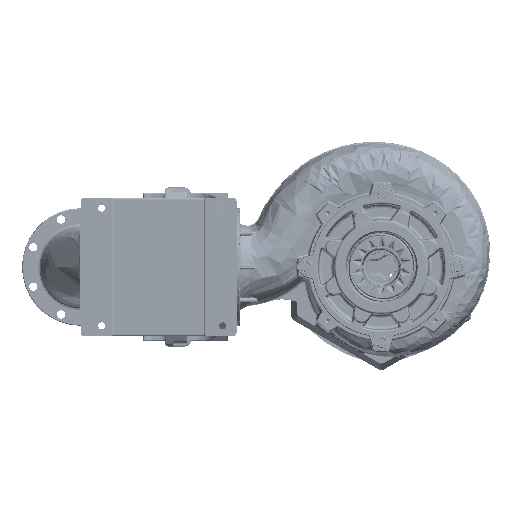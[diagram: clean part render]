
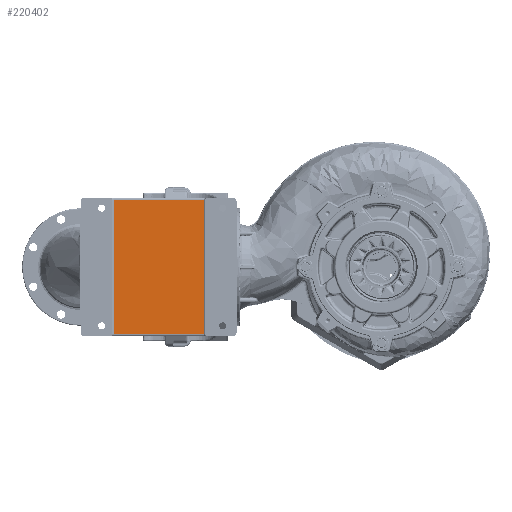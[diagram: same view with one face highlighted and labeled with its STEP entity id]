
A CAD part, front view. The second image highlights one B-rep face of the part: STEP entity #220402.
In plain terms, the highlighted planar face has unit normal (0, -1, 0).
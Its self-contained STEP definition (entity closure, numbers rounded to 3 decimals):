
#54854 = DIRECTION ( 'NONE',  ( 0., 0., 1. ) ) ;
#83833 = ORIENTED_EDGE ( 'NONE', *, *, #310374, .T. ) ;
#103706 = EDGE_LOOP ( 'NONE', ( #543806, #116310, #83833, #385928 ) ) ;
#109816 = VECTOR ( 'NONE', #126373, 1000. ) ;
#111866 = CARTESIAN_POINT ( 'NONE',  ( -509., -651.702, -195. ) ) ;
#115738 = LINE ( 'NONE', #267656, #162279 ) ;
#116310 = ORIENTED_EDGE ( 'NONE', *, *, #317896, .T. ) ;
#126373 = DIRECTION ( 'NONE',  ( -1., 0., 0. ) ) ;
#143199 = CARTESIAN_POINT ( 'NONE',  ( -774., -651.702, -200. ) ) ;
#153451 = AXIS2_PLACEMENT_3D ( 'NONE', #449535, #494274, #154169 ) ;
#154169 = DIRECTION ( 'NONE',  ( 0., 0., 1. ) ) ;
#162279 = VECTOR ( 'NONE', #54854, 1000. ) ;
#170130 = VERTEX_POINT ( 'NONE', #539818 ) ;
#201348 = VERTEX_POINT ( 'NONE', #311974 ) ;
#220402 = ADVANCED_FACE ( 'NONE', ( #488334 ), #232779, .F. ) ;
#220931 = CARTESIAN_POINT ( 'NONE',  ( -514., -651.702, 195. ) ) ;
#227015 = VERTEX_POINT ( 'NONE', #220931 ) ;
#232779 = PLANE ( 'NONE',  #153451 ) ;
#236090 = CARTESIAN_POINT ( 'NONE',  ( -774., -651.702, -195. ) ) ;
#267656 = CARTESIAN_POINT ( 'NONE',  ( -514., -651.702, 200. ) ) ;
#291539 = LINE ( 'NONE', #143199, #365076 ) ;
#298057 = EDGE_CURVE ( 'NONE', #518529, #170130, #450901, .T. ) ;
#310374 = EDGE_CURVE ( 'NONE', #227015, #201348, #531046, .T. ) ;
#311974 = CARTESIAN_POINT ( 'NONE',  ( -774., -651.702, 195. ) ) ;
#317896 = EDGE_CURVE ( 'NONE', #170130, #227015, #115738, .T. ) ;
#323733 = VECTOR ( 'NONE', #330273, 1000. ) ;
#330273 = DIRECTION ( 'NONE',  ( 1., 0., 0. ) ) ;
#360012 = DIRECTION ( 'NONE',  ( 0., 0., -1. ) ) ;
#365076 = VECTOR ( 'NONE', #360012, 1000. ) ;
#385928 = ORIENTED_EDGE ( 'NONE', *, *, #422439, .T. ) ;
#422439 = EDGE_CURVE ( 'NONE', #201348, #518529, #291539, .T. ) ;
#449535 = CARTESIAN_POINT ( 'NONE',  ( -779., -651.702, -230. ) ) ;
#450901 = LINE ( 'NONE', #111866, #323733 ) ;
#488334 = FACE_OUTER_BOUND ( 'NONE', #103706, .T. ) ;
#494274 = DIRECTION ( 'NONE',  ( 0., 1., 0. ) ) ;
#511197 = CARTESIAN_POINT ( 'NONE',  ( -779., -651.702, 195. ) ) ;
#518529 = VERTEX_POINT ( 'NONE', #236090 ) ;
#531046 = LINE ( 'NONE', #511197, #109816 ) ;
#539818 = CARTESIAN_POINT ( 'NONE',  ( -514., -651.702, -195. ) ) ;
#543806 = ORIENTED_EDGE ( 'NONE', *, *, #298057, .T. ) ;
